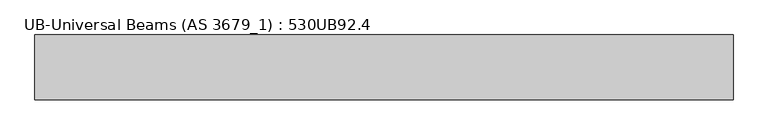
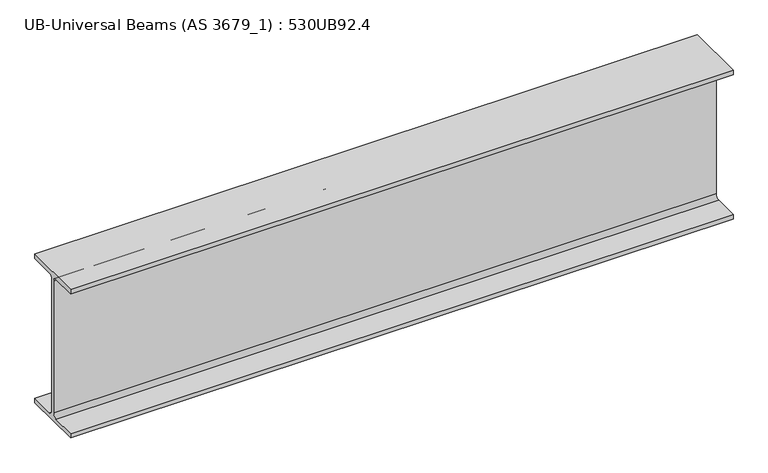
"""IFC4 building model written with IfcOpenShell, lengths in millimetres: beam geometry, UB-Universal Beams (AS 3679_1) : 530UB92.4."""

from ifc_helpers import new_model, si_unit, point, frame, frame_2d, origin, place, context, project, spatial, polyline, circle_curve, trimmed, segment, composite_curve, outline, extrude, source, transform, mapped, element, save


def ub_universal_beams_as_3679_1_530ub92_4_7000386a(model_context):
    return source(origin(), model_context, "Body", "SweptSolid", [
        extrude(outline(composite_curve([segment(polyline([(104.5, -250.9), (104.5, -266.5), (-104.5, -266.5), (-104.5, -250.9), (-19.1, -250.9)]), True, "CONTINUOUS"), segment(trimmed(circle_curve(frame_2d((-19.1, -236.9)), 14.0), [point((-19.1, -250.9))], [point((-5.1, -236.9))], True, "CARTESIAN"), True, "CONTINUOUS"), segment(polyline([(-5.1, -236.9), (-5.1, 236.9)]), True, "CONTINUOUS"), segment(trimmed(circle_curve(frame_2d((-19.1, 236.9)), 14.0), [point((-5.1, 236.9))], [point((-19.1, 250.9))], True, "CARTESIAN"), True, "CONTINUOUS"), segment(polyline([(-19.1, 250.9), (-104.5, 250.9), (-104.5, 266.5), (104.5, 266.5), (104.5, 250.9), (19.1, 250.9)]), True, "CONTINUOUS"), segment(trimmed(circle_curve(frame_2d((19.1, 236.9)), 14.0), [point((19.1, 250.9))], [point((5.1, 236.9))], True, "CARTESIAN"), True, "CONTINUOUS"), segment(polyline([(5.1, 236.9), (5.1, -236.9)]), True, "CONTINUOUS"), segment(trimmed(circle_curve(frame_2d((19.1, -236.9)), 14.0), [point((5.1, -236.9))], [point((19.1, -250.9))], True, "CARTESIAN"), True, "CONTINUOUS"), segment(polyline([(19.1, -250.9), (104.5, -250.9)]), True, "CONTINUOUS")], self_intersect=False)), frame((-1132.8, 0.0, 0.0), z_axis=(1.0, 0.0, 0.0), x_axis=(0.0, 1.0, 0.0)), (0.0, 0.0, 1.0), 2245.1),
    ])


if __name__ == "__main__":
    model = new_model("IFC4")
    model_context = context("Model", 3, world=origin())
    ifc_project = project(units=[si_unit("LENGTHUNIT", "METRE", prefix="MILLI")], contexts=[model_context])
    site = spatial("IfcSite", under=ifc_project)
    building = spatial("IfcBuilding", under=site)
    placement = place(None, origin())
    ub_universal_beams_as_3679_1_530ub92_4_shape = ub_universal_beams_as_3679_1_530ub92_4_7000386a(model_context)
    element("IfcBeam", 1, ObjectType="UB-Universal Beams (AS 3679_1) : 530UB92.4", at=placement, inside=building, context=model_context, shape_type="MappedRepresentation", body=[
        mapped(ub_universal_beams_as_3679_1_530ub92_4_shape, transform((0.0, 0.0, 0.0), x_axis=(1.0, 0.0, 0.0), y_axis=(0.0, 1.0, 0.0), z_axis=(0.0, 0.0, 1.0))),
    ])
    save(model, "model.ifc")
